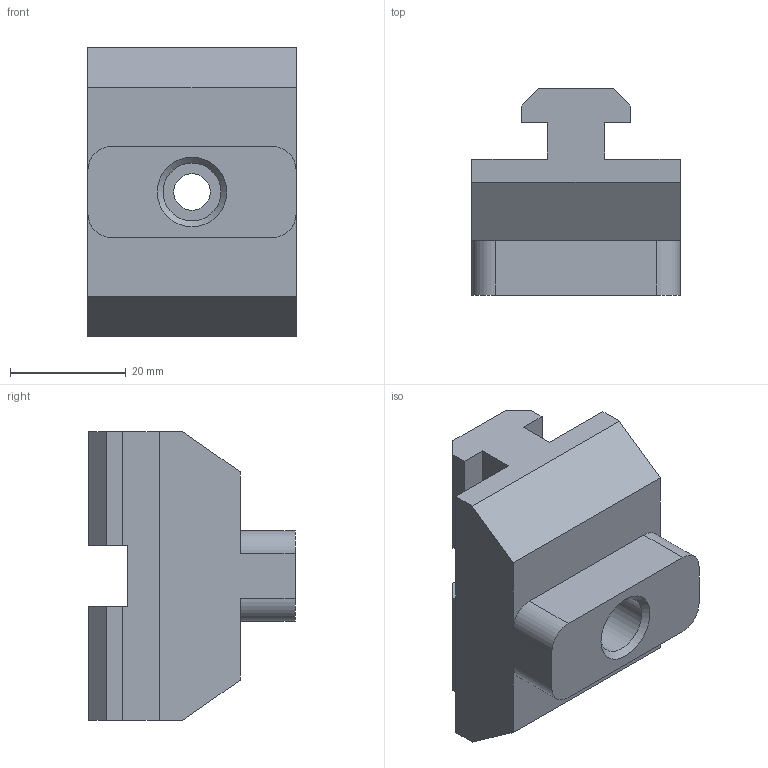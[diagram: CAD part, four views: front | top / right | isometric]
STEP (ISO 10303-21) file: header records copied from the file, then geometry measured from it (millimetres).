
FILE_DESCRIPTION(/* description */ (''),/* implementation_level */ '2;1');
FILE_NAME(/* name */ 'TRAYLOADER.32.v1c.stp',/* time_stamp */ '2025-05-13T11:06:59+02:00',/* author */ (''),/* organization */ (''),/* preprocessor_version */ 'ST-DEVELOPER v19.4',/* originating_system */ 'SIEMENS PLM Software NX2306.5001',/* authorisation */ '');
FILE_SCHEMA (('AP203_CONFIGURATION_CONTROLLED_3D_DESIGN_OF_MECHANICAL_PARTS_AND_ASSEMBLIES_MIM_LF { 1 0 10303 403 2 1 2}'));
Length unit declared in the file: millimetre
Products named in the file (1): TRAYLOADER.32.v1c_objects
Bounding box: 36 x 35.7 x 50 mm (x, y, z)
Volume: 33674.8 mm3; surface area: 9241.3 mm2
Topology: 1 solids, 1 shells, 40 faces, 111 edges, 74 vertices
Faces by surface type: plane 33, cylinder 6, cone 1
Full cylindrical faces by diameter (mm): 6.3 x1, 10 x1
Entity records: 1334 total; most frequent: CARTESIAN_POINT 221, ORIENTED_EDGE 214, DIRECTION 202, EDGE_CURVE 107, LINE 94, VECTOR 94, VERTEX_POINT 73, AXIS2_PLACEMENT_3D 54
